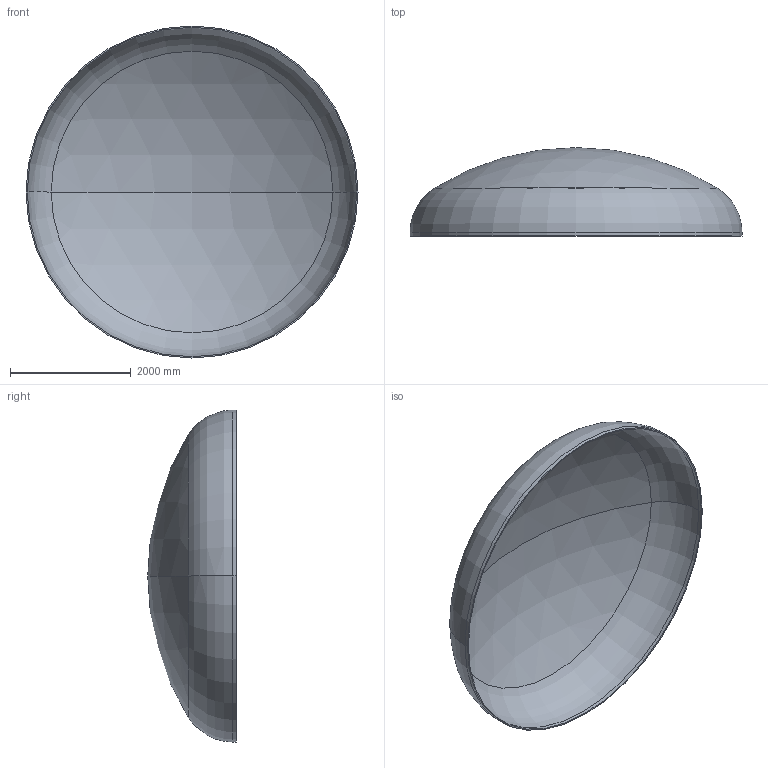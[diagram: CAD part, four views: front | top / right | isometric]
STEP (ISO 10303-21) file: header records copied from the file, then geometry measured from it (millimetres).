
FILE_DESCRIPTION (( 'STEP AP203' ), '1' );
FILE_NAME ('DIN 28013 Korbbogenform_-_Boden DIN 28013 - 5500 x 60 - I - s=20.step', '2016-07-04T10:33:42', ( '' ), ( '' ), 'SwSTEP 2.0', 'SolidWorks 2013', '' );
FILE_SCHEMA (( 'CONFIG_CONTROL_DESIGN' ));
Length unit declared in the file: millimetre
Products named in the file (1): DIN 28013 Korbbogenform_-_Boden DIN 28013 - 5500 x 60 - I - s=20
Bounding box: 5500 x 1465.9 x 5500 mm (x, y, z)
Volume: 675338001.9 mm3; surface area: 67878929.2 mm2
Topology: 1 solids, 1 shells, 13 faces, 24 edges, 14 vertices
Faces by surface type: torus 4, cylinder 4, sphere 4, plane 1
Entity records: 407 total; most frequent: DIRECTION 72, CARTESIAN_POINT 52, ORIENTED_EDGE 48, AXIS2_PLACEMENT_3D 34, EDGE_CURVE 24, CIRCLE 20, EDGE_LOOP 14, VERTEX_POINT 14
